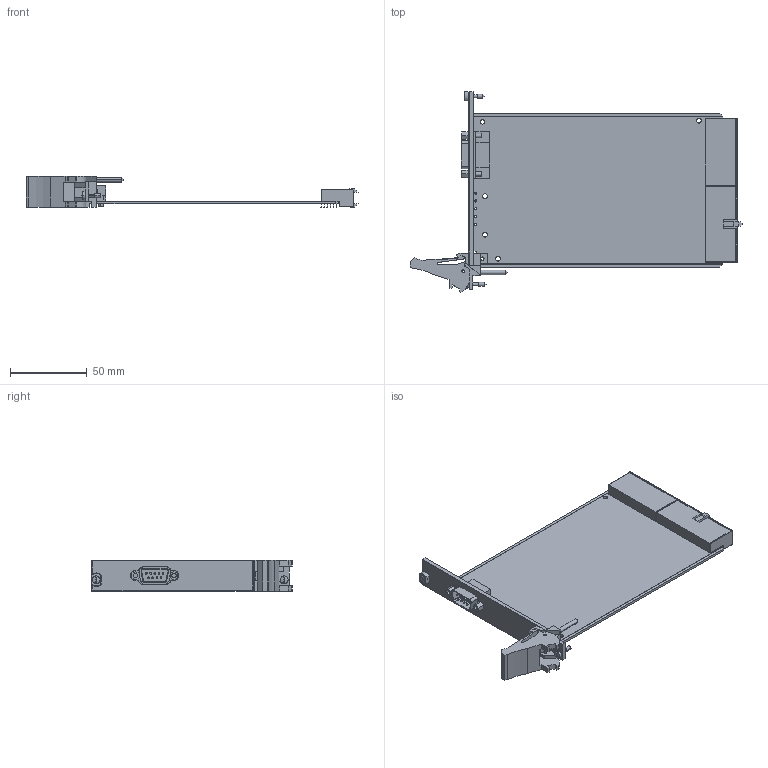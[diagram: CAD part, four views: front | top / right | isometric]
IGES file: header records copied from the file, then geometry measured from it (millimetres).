
Start section:  PTC IGES file: cu_pxi-8464.igs
Global section: file name: cu_pxi-8464.igs; native system: Pro/ENGINEER by Parametric Technology Corporation; preprocessor: 2006080; author: jpfaff; organization: Unknown; date: 090518.145519; units: inch
Bounding box: 216.08 x 130.62 x 20.19 mm (x, y, z)
Surface area: 52007.2 mm2 (no closed solid volume)
Topology: 0 solids, 0 shells, 572 faces, 2918 edges, 2914 vertices
Faces by surface type: bspline 346, revolution 226
